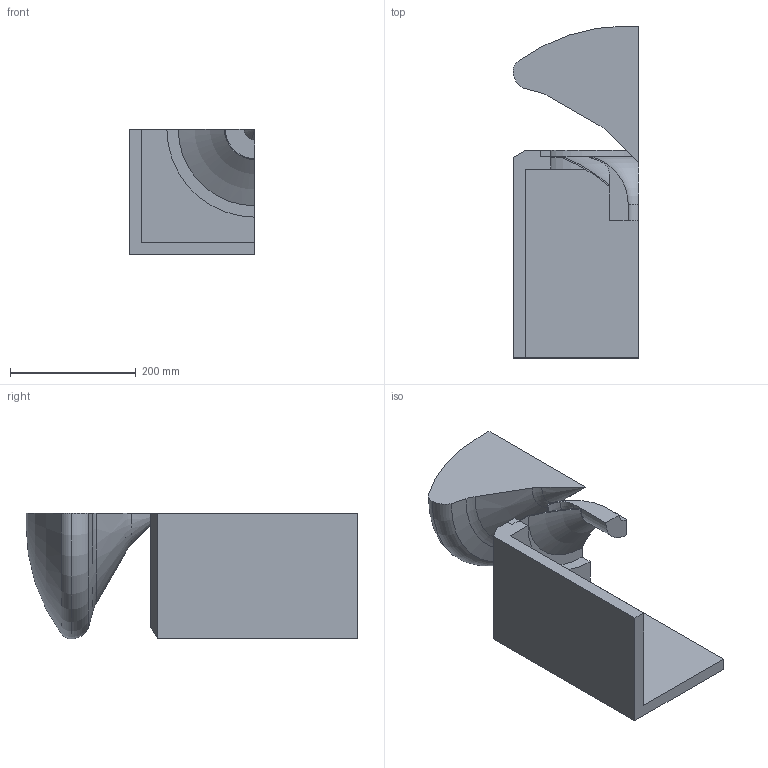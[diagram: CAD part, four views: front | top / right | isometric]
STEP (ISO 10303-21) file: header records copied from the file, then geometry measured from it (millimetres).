
FILE_DESCRIPTION (( 'STEP AP214' ), '1' );
FILE_NAME ('Mit Tribid-Kegek.STEP', '2024-08-15T10:18:17', ( '' ), ( '' ), 'SwSTEP 2.0', 'SolidWorks 2013', '' );
FILE_SCHEMA (( 'AUTOMOTIVE_DESIGN' ));
Length unit declared in the file: centimetre
Products named in the file (4): Tribrid 40cm; Beyma Coax mit Kegel; Gehäuse; Mit Tribid-Kegek
Assembly tree (3 placements, depth 2):
  Mit Tribid-Kegek
    Gehäuse
    Beyma Coax mit Kegel
    Tribrid 40cm
Bounding box: 200 x 527.59 x 200 mm (x, y, z)
Volume: 6037828.4 mm3; surface area: 500894.9 mm2
Topology: 4 solids, 4 shells, 49 faces, 123 edges, 81 vertices
Faces by surface type: plane 25, torus 12, cylinder 8, cone 4
Entity records: 1845 total; most frequent: DIRECTION 288, CARTESIAN_POINT 258, ORIENTED_EDGE 244, EDGE_CURVE 122, AXIS2_PLACEMENT_3D 111, VERTEX_POINT 81, LINE 66, VECTOR 66
